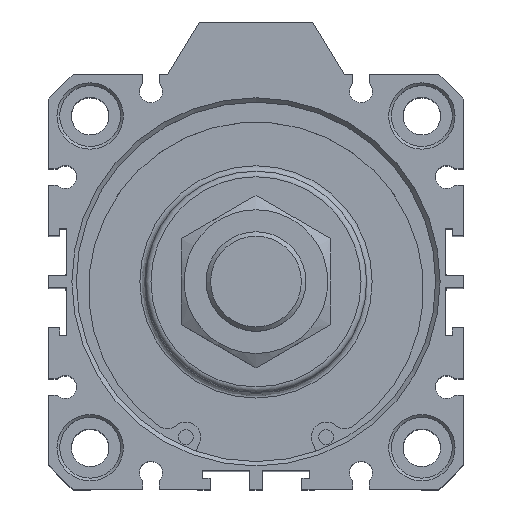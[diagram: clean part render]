
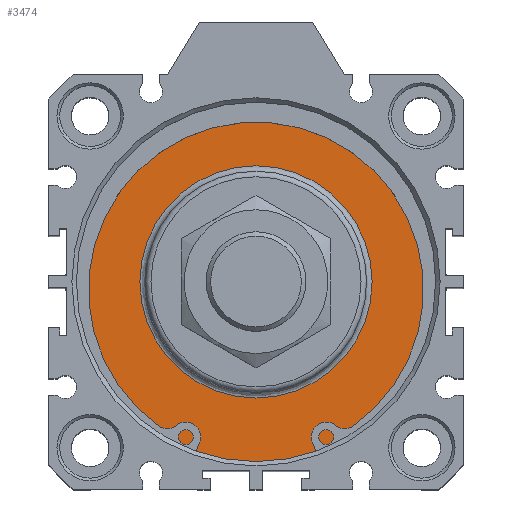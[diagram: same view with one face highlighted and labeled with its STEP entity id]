
A CAD part, top view. The second image highlights one B-rep face of the part: STEP entity #3474.
In plain terms, the highlighted planar face has unit normal (0, 0, 1).
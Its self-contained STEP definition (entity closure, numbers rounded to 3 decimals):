
#3423=CARTESIAN_POINT('',(2.99,22.555,77.3));
#3424=VERTEX_POINT('',#3423);
#3425=CARTESIAN_POINT('',(2.99,1.555,77.3));
#3426=DIRECTION('',(0.0,0.0,1.0));
#3427=DIRECTION('',(0.0,-1.0,0.0));
#3428=AXIS2_PLACEMENT_3D('',#3425,#3426,#3427);
#3429=CIRCLE('',#3428,21.);
#3430=EDGE_CURVE('',#3424,#3424,#3429,.T.);
#3455=CARTESIAN_POINT('',(2.99,27.805,77.3));
#3456=DIRECTION('',(0.0,0.0,1.0));
#3457=DIRECTION('',(1.0,0.0,0.0));
#3458=AXIS2_PLACEMENT_3D('',#3455,#3456,#3457);
#3459=PLANE('',#3458);
#3460=CARTESIAN_POINT('',(2.99,34.055,77.3));
#3461=VERTEX_POINT('',#3460);
#3462=CARTESIAN_POINT('',(2.99,1.555,77.3));
#3463=DIRECTION('',(0.0,0.0,-1.0));
#3464=DIRECTION('',(0.0,1.0,0.0));
#3465=AXIS2_PLACEMENT_3D('',#3462,#3463,#3464);
#3466=CIRCLE('',#3465,32.5);
#3467=EDGE_CURVE('',#3461,#3461,#3466,.T.);
#3468=ORIENTED_EDGE('',*,*,#3467,.F.);
#3469=EDGE_LOOP('',(#3468));
#3470=FACE_OUTER_BOUND('',#3469,.T.);
#3471=ORIENTED_EDGE('',*,*,#3430,.F.);
#3472=EDGE_LOOP('',(#3471));
#3473=FACE_BOUND('',#3472,.T.);
#3474=ADVANCED_FACE('',(#3470,#3473),#3459,.T.);
